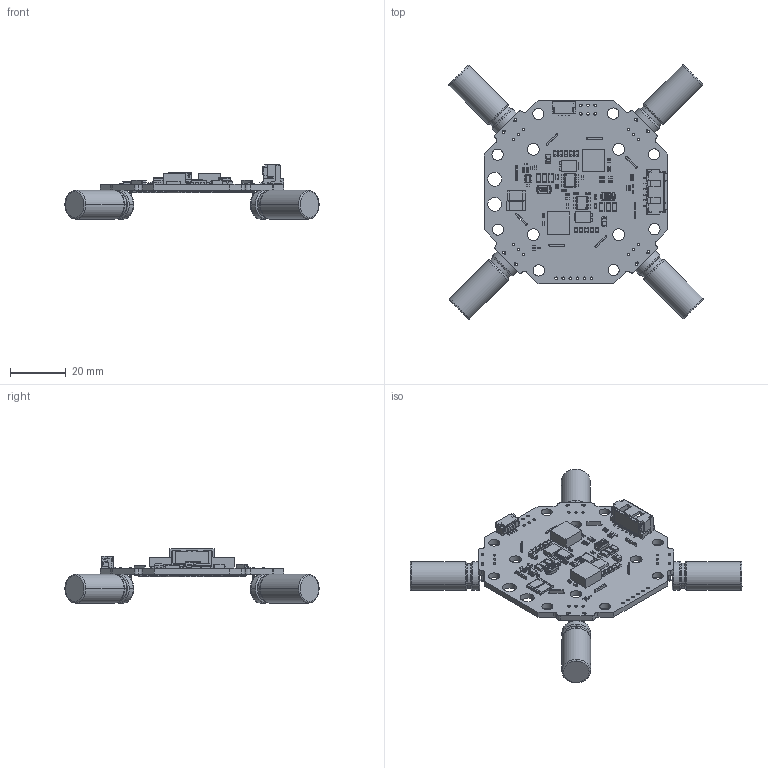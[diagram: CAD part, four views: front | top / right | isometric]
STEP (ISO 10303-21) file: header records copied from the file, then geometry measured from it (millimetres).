
FILE_DESCRIPTION (( 'STEP AP214' ), '1' );
FILE_NAME ('PDB 337 .STEP', '2026-06-19T09:37:31', ( '' ), ( '' ), 'RDCAD ', 'PDB 150A', '' );
FILE_SCHEMA (( 'AUTOMOTIVE_DESIGN' ));
Length unit declared in the file: millimetre
Products named in the file (3): CU strip _0.5mm_PDB_D-337; PCB337_20042026-R2 ; PDB 337 
Assembly tree (3 placements, depth 2):
  PDB 337 
    PCB337_20042026-R2 
    CU strip _0.5mm_PDB_D-337  x2
Bounding box: 90.94 x 90.94 x 19.35 mm (x, y, z)
Volume: 17279.1 mm3; surface area: 18311.4 mm2
Topology: 259 solids, 259 shells, 6231 faces, 15914 edges, 10136 vertices
Faces by surface type: plane 3776, cylinder 1113, bspline 1042, sphere 252, torus 48
Entity records: 264600 total; most frequent: CARTESIAN_POINT 51525, ORIENTED_EDGE 31338, DIRECTION 25959, EDGE_CURVE 15669, LINE 11135, VECTOR 11135, VERTEX_POINT 10058, AXIS2_PLACEMENT_3D 7412
